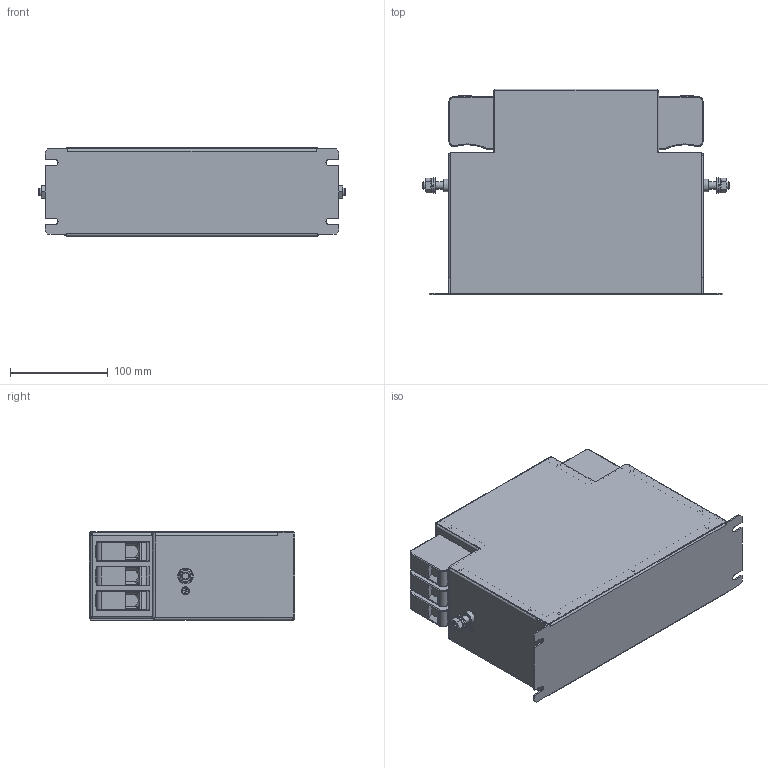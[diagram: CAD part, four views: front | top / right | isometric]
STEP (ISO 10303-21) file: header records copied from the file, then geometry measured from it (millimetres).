
FILE_DESCRIPTION(/* description */ ('raw material description'),/* implementation_level */ '2;1');
FILE_NAME(/* name */ 'C:\Users\Oliver.Volic\OneDrive - Schaffner EMV AG\Projekte\STEP\Wanda\FN3288-100-35..stp',/* time_stamp */ '2018-06-27T15:49:32+02:00',/* author */ ('Oliver.Volic'),/* organization */ ('Schaffner EMV AG'),/* preprocessor_version */ 'ST-DEVELOPER v16.5',/* originating_system */ 'Autodesk Inventor 2017',/* authorisation */ '');
FILE_SCHEMA (('AUTOMOTIVE_DESIGN { 1 0 10303 214 3 1 1 }'));
Length unit declared in the file: millimetre
Products named in the file (1): FN3288-100-35.
Bounding box: 313 x 210.05 x 90 mm (x, y, z)
Volume: 592517.2 mm3; surface area: 425301.2 mm2
Topology: 1 solids, 7 shells, 1132 faces, 2730 edges, 1670 vertices
Faces by surface type: plane 709, cylinder 249, bspline 90, torus 60, cone 24
Full cylindrical faces by diameter (mm): 3.3 x13, 4.82 x4, 6.8 x6, 7 x2, 7.323 x2, 8 x6, 8.4 x2, 10.5 x2, 11.4 x2, 12.65 x2, 16 x2
Entity records: 34137 total; most frequent: CARTESIAN_POINT 7079, ORIENTED_EDGE 5314, DIRECTION 5296, EDGE_CURVE 2649, LINE 1896, VECTOR 1896, AXIS2_PLACEMENT_3D 1700, VERTEX_POINT 1656
